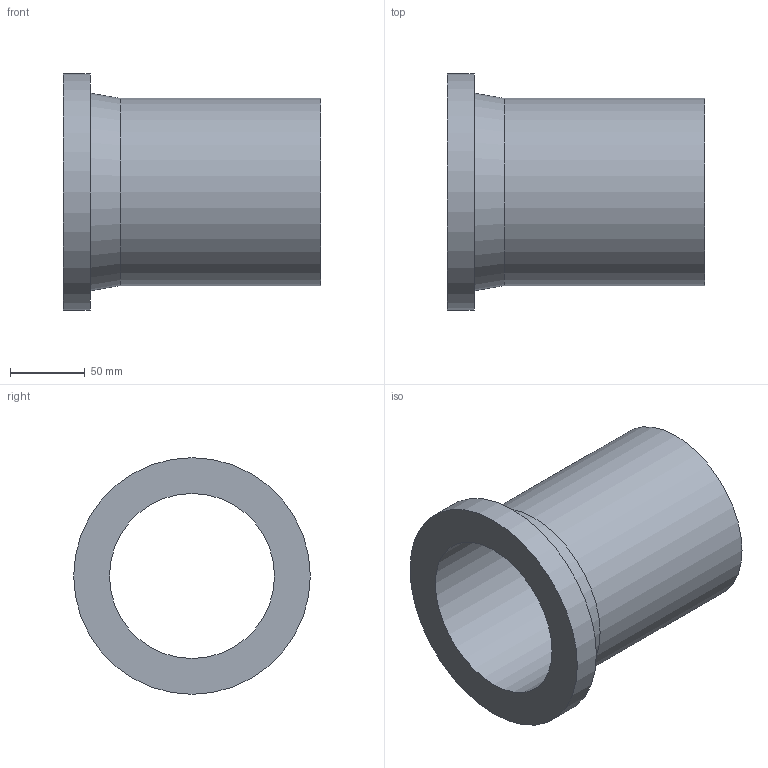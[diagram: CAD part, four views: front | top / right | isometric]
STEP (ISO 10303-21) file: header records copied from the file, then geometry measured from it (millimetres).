
FILE_DESCRIPTION(('Beschreibung'),'1');
FILE_NAME('V:/Ziel/25.80.01.063_SDR_17_PE100_125.STP', '2014-09-15T05:45:26',('Author'), ('Organization'), 'KCM Version 1.1.794.0', 'Kubotek KeyCreator', 'Authorization');
FILE_SCHEMA(('CONFIG_CONTROL_DESIGN'));
Length unit declared in the file: millimetre
Bounding box: 172 x 158 x 158 mm (x, y, z)
Volume: 616265.6 mm3; surface area: 148024.6 mm2
Topology: 1 solids, 1 shells, 7 faces, 18 edges, 21 vertices
Faces by surface type: cylinder 3, plane 3, cone 1
Full cylindrical faces by diameter (mm): 110.2 x1, 125 x1, 158 x1
Entity records: 286 total; most frequent: DIRECTION 41, CARTESIAN_POINT 33, ORIENTED_EDGE 22, AXIS2_PLACEMENT_3D 15, EDGE_CURVE 11, VECTOR 11, LINE 11, EDGE_LOOP 10
